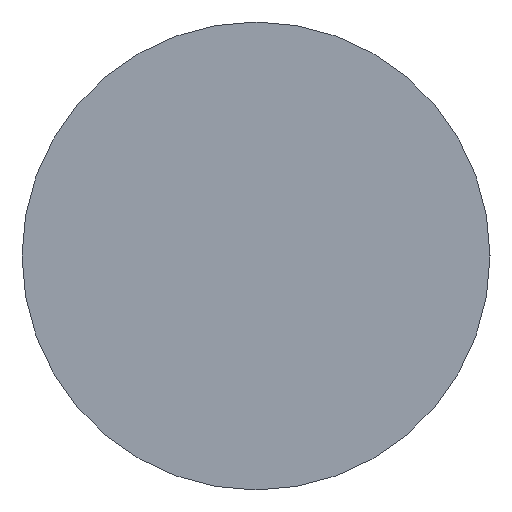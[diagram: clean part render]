
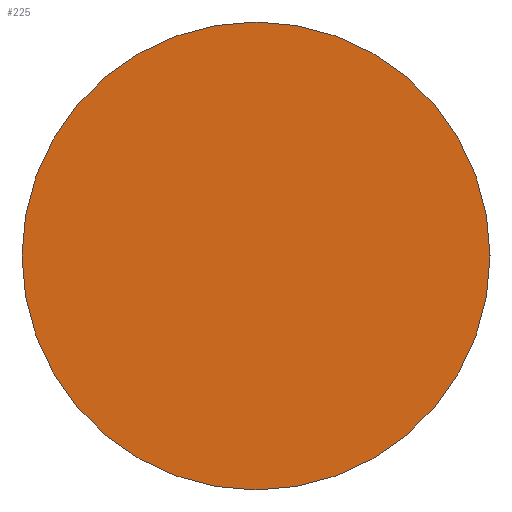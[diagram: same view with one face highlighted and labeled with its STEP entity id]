
A CAD part, front view. The second image highlights one B-rep face of the part: STEP entity #225.
In plain terms, the highlighted planar face has unit normal (0, -1, 0).
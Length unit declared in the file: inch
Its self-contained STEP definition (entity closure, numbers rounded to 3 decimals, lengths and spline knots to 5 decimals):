
#15 = EDGE_LOOP ( 'NONE', ( #259, #76 ) ) ;
#33 = CIRCLE ( 'NONE', #234, 0.14 ) ;
#34 = DIRECTION ( 'NONE',  ( -1., 0., 0. ) ) ;
#76 = ORIENTED_EDGE ( 'NONE', *, *, #252, .F. ) ;
#82 = CARTESIAN_POINT ( 'NONE',  ( 0.14, 0., 0. ) ) ;
#115 = CARTESIAN_POINT ( 'NONE',  ( 0., 0., 0. ) ) ;
#153 = FACE_OUTER_BOUND ( 'NONE', #15, .T. ) ;
#154 = DIRECTION ( 'NONE',  ( -1., 0., 0. ) ) ;
#177 = DIRECTION ( 'NONE',  ( 0., 1., 0. ) ) ;
#191 = VERTEX_POINT ( 'NONE', #273 ) ;
#193 = DIRECTION ( 'NONE',  ( 0., 1., 0. ) ) ;
#196 = DIRECTION ( 'NONE',  ( 0., 1., 0. ) ) ;
#198 = CIRCLE ( 'NONE', #205, 0.14 ) ;
#205 = AXIS2_PLACEMENT_3D ( 'NONE', #224, #177, #154 ) ;
#221 = DIRECTION ( 'NONE',  ( -1., 0., 0. ) ) ;
#224 = CARTESIAN_POINT ( 'NONE',  ( 0., 0., 0. ) ) ;
#225 = ADVANCED_FACE ( 'NONE', ( #153 ), #237, .F. ) ;
#234 = AXIS2_PLACEMENT_3D ( 'NONE', #115, #196, #221 ) ;
#237 = PLANE ( 'NONE',  #263 ) ;
#251 = VERTEX_POINT ( 'NONE', #82 ) ;
#252 = EDGE_CURVE ( 'NONE', #251, #191, #198, .T. ) ;
#259 = ORIENTED_EDGE ( 'NONE', *, *, #301, .F. ) ;
#263 = AXIS2_PLACEMENT_3D ( 'NONE', #293, #193, #34 ) ;
#273 = CARTESIAN_POINT ( 'NONE',  ( -0.14, 0., 0. ) ) ;
#293 = CARTESIAN_POINT ( 'NONE',  ( 0., 0., 0. ) ) ;
#301 = EDGE_CURVE ( 'NONE', #191, #251, #33, .T. ) ;
